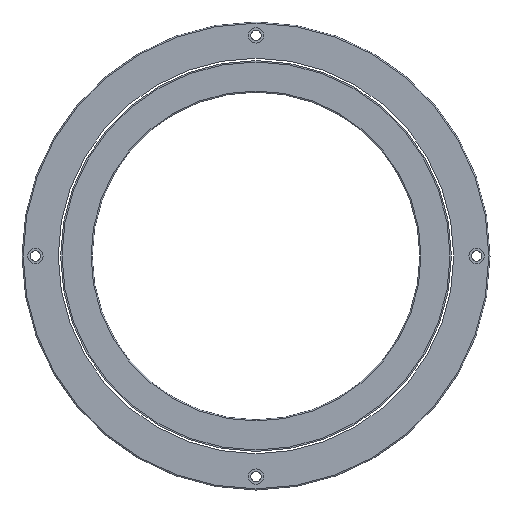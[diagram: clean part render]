
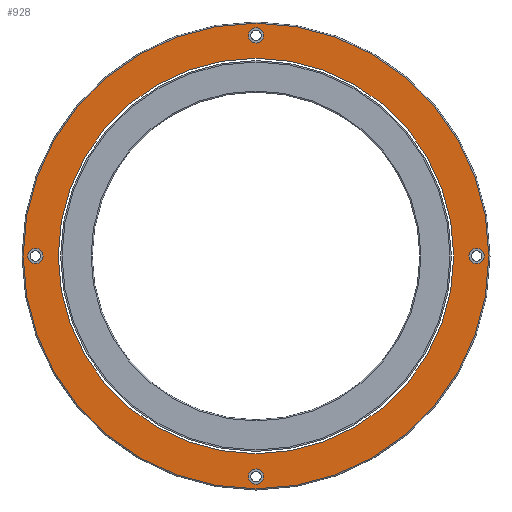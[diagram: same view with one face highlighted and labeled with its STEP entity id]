
A CAD part, front view. The second image highlights one B-rep face of the part: STEP entity #928.
In plain terms, the highlighted planar face has unit normal (0, -1, 0).
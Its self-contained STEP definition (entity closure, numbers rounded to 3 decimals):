
#43=CARTESIAN_POINT('',(0.,0.,0.));
#44=DIRECTION('',(0.,-1.,0.));
#45=DIRECTION('',(-1.,0.,0.));
#46=AXIS2_PLACEMENT_3D('',#43,#44,#45);
#48=CARTESIAN_POINT('',(0.,0.,0.));
#49=DIRECTION('',(0.,1.,0.));
#50=DIRECTION('',(-1.,0.,0.));
#51=AXIS2_PLACEMENT_3D('',#48,#49,#50);
#53=CARTESIAN_POINT('',(-94.25,0.,0.));
#54=DIRECTION('',(0.,1.,0.));
#55=DIRECTION('',(1.,0.,0.));
#56=AXIS2_PLACEMENT_3D('',#53,#54,#55);
#58=CARTESIAN_POINT('',(-94.25,0.,0.));
#59=DIRECTION('',(0.,1.,0.));
#60=DIRECTION('',(-1.,0.,0.));
#61=AXIS2_PLACEMENT_3D('',#58,#59,#60);
#63=CARTESIAN_POINT('',(0.,0.,94.25));
#64=DIRECTION('',(0.,1.,0.));
#65=DIRECTION('',(0.,0.,-1.));
#66=AXIS2_PLACEMENT_3D('',#63,#64,#65);
#68=CARTESIAN_POINT('',(0.,0.,94.25));
#69=DIRECTION('',(0.,1.,0.));
#70=DIRECTION('',(0.,0.,1.));
#71=AXIS2_PLACEMENT_3D('',#68,#69,#70);
#73=CARTESIAN_POINT('',(94.25,0.,0.));
#74=DIRECTION('',(0.,1.,0.));
#75=DIRECTION('',(-1.,0.,0.));
#76=AXIS2_PLACEMENT_3D('',#73,#74,#75);
#78=CARTESIAN_POINT('',(94.25,0.,0.));
#79=DIRECTION('',(0.,1.,0.));
#80=DIRECTION('',(1.,0.,0.));
#81=AXIS2_PLACEMENT_3D('',#78,#79,#80);
#83=CARTESIAN_POINT('',(0.,0.,-94.25));
#84=DIRECTION('',(0.,1.,0.));
#85=DIRECTION('',(0.,0.,1.));
#86=AXIS2_PLACEMENT_3D('',#83,#84,#85);
#88=CARTESIAN_POINT('',(0.,0.,-94.25));
#89=DIRECTION('',(0.,1.,0.));
#90=DIRECTION('',(0.,0.,-1.));
#91=AXIS2_PLACEMENT_3D('',#88,#89,#90);
#93=CARTESIAN_POINT('',(0.,0.,0.));
#94=DIRECTION('',(0.,1.,0.));
#95=DIRECTION('',(-1.,0.,0.));
#96=AXIS2_PLACEMENT_3D('',#93,#94,#95);
#98=CARTESIAN_POINT('',(0.,0.,0.));
#99=DIRECTION('',(0.,1.,0.));
#100=DIRECTION('',(1.,0.,0.));
#101=AXIS2_PLACEMENT_3D('',#98,#99,#100);
#751=CARTESIAN_POINT('',(-91.,0.,0.));
#752=VERTEX_POINT('',#751);
#753=CARTESIAN_POINT('',(-97.5,0.,0.));
#754=VERTEX_POINT('',#753);
#763=CARTESIAN_POINT('',(0.,0.,91.));
#764=VERTEX_POINT('',#763);
#765=CARTESIAN_POINT('',(0.,0.,97.5));
#766=VERTEX_POINT('',#765);
#775=CARTESIAN_POINT('',(91.,0.,0.));
#776=VERTEX_POINT('',#775);
#777=CARTESIAN_POINT('',(97.5,0.,0.));
#778=VERTEX_POINT('',#777);
#787=CARTESIAN_POINT('',(0.,0.,-91.));
#788=VERTEX_POINT('',#787);
#789=CARTESIAN_POINT('',(0.,0.,-97.5));
#790=VERTEX_POINT('',#789);
#808=CARTESIAN_POINT('',(-84.5,0.,0.));
#810=VERTEX_POINT('',#808);
#812=CARTESIAN_POINT('',(84.5,0.,0.));
#814=VERTEX_POINT('',#812);
#827=CARTESIAN_POINT('',(-99.5,0.,0.));
#828=CARTESIAN_POINT('',(99.5,0.,0.));
#829=VERTEX_POINT('',#827);
#830=VERTEX_POINT('',#828);
#889=CARTESIAN_POINT('',(0.,0.,0.));
#890=DIRECTION('',(0.,1.,0.));
#891=DIRECTION('',(1.,0.,0.));
#892=AXIS2_PLACEMENT_3D('',#889,#890,#891);
#893=PLANE('',#892);
#895=ORIENTED_EDGE('',*,*,#894,.T.);
#897=ORIENTED_EDGE('',*,*,#896,.T.);
#898=EDGE_LOOP('',(#895,#897));
#899=FACE_OUTER_BOUND('',#898,.F.);
#900=ORIENTED_EDGE('',*,*,#868,.F.);
#901=ORIENTED_EDGE('',*,*,#884,.F.);
#902=EDGE_LOOP('',(#900,#901));
#903=FACE_BOUND('',#902,.F.);
#905=ORIENTED_EDGE('',*,*,#904,.F.);
#907=ORIENTED_EDGE('',*,*,#906,.F.);
#908=EDGE_LOOP('',(#905,#907));
#909=FACE_BOUND('',#908,.F.);
#911=ORIENTED_EDGE('',*,*,#910,.F.);
#913=ORIENTED_EDGE('',*,*,#912,.F.);
#914=EDGE_LOOP('',(#911,#913));
#915=FACE_BOUND('',#914,.F.);
#917=ORIENTED_EDGE('',*,*,#916,.F.);
#919=ORIENTED_EDGE('',*,*,#918,.F.);
#920=EDGE_LOOP('',(#917,#919));
#921=FACE_BOUND('',#920,.F.);
#923=ORIENTED_EDGE('',*,*,#922,.T.);
#925=ORIENTED_EDGE('',*,*,#924,.F.);
#926=EDGE_LOOP('',(#923,#925));
#927=FACE_BOUND('',#926,.F.);
#47=CIRCLE('',#46,84.5);
#52=CIRCLE('',#51,84.5);
#57=CIRCLE('',#56,3.25);
#62=CIRCLE('',#61,3.25);
#67=CIRCLE('',#66,3.25);
#72=CIRCLE('',#71,3.25);
#77=CIRCLE('',#76,3.25);
#82=CIRCLE('',#81,3.25);
#87=CIRCLE('',#86,3.25);
#92=CIRCLE('',#91,3.25);
#97=CIRCLE('',#96,99.5);
#102=CIRCLE('',#101,99.5);
#868=EDGE_CURVE('',#752,#754,#57,.T.);
#884=EDGE_CURVE('',#754,#752,#62,.T.);
#894=EDGE_CURVE('',#829,#830,#97,.T.);
#896=EDGE_CURVE('',#830,#829,#102,.T.);
#904=EDGE_CURVE('',#764,#766,#67,.T.);
#906=EDGE_CURVE('',#766,#764,#72,.T.);
#910=EDGE_CURVE('',#776,#778,#77,.T.);
#912=EDGE_CURVE('',#778,#776,#82,.T.);
#916=EDGE_CURVE('',#788,#790,#87,.T.);
#918=EDGE_CURVE('',#790,#788,#92,.T.);
#922=EDGE_CURVE('',#810,#814,#47,.T.);
#924=EDGE_CURVE('',#810,#814,#52,.T.);
#928=ADVANCED_FACE('',(#899,#903,#909,#915,#921,#927),#893,.F.);
